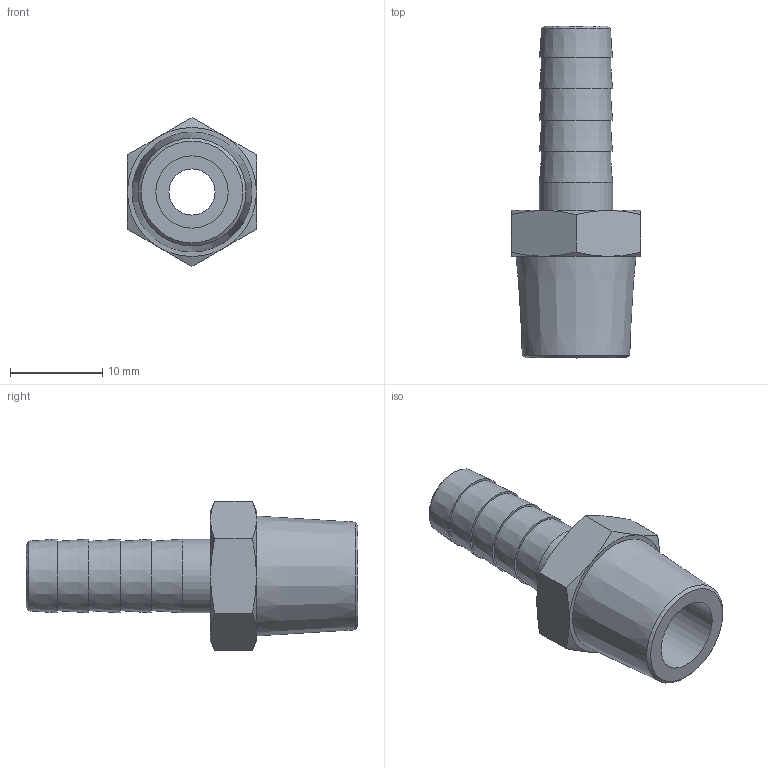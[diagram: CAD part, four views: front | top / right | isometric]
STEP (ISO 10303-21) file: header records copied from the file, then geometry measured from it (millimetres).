
FILE_DESCRIPTION(/* description */ (''),/* implementation_level */ '2;1');
FILE_NAME(/* name */ 'BXH09 08B2 00.stp',/* time_stamp */ '2026-06-22T10:55:22+02:00',/* author */ ('freju'),/* organization */ (''),/* preprocessor_version */ 'ST-DEVELOPER v20.1',/* originating_system */ 'Autodesk Inventor 2026',/* authorisation */ '');
FILE_SCHEMA (('AUTOMOTIVE_DESIGN { 1 0 10303 214 3 1 1 }'));
Length unit declared in the file: millimetre
Products named in the file (1): BXH09 08B2 00
Bounding box: 14 x 36 x 16.17 mm (x, y, z)
Volume: 2043.8 mm3; surface area: 2106.4 mm2
Topology: 1 solids, 1 shells, 38 faces, 75 edges, 46 vertices
Faces by surface type: cone 20, plane 15, cylinder 3
Full cylindrical faces by diameter (mm): 5 x1, 7.85 x1, 8 x1
Entity records: 1000 total; most frequent: CARTESIAN_POINT 208, DIRECTION 163, ORIENTED_EDGE 150, EDGE_CURVE 75, AXIS2_PLACEMENT_3D 73, EDGE_LOOP 47, VERTEX_POINT 46, FACE_OUTER_BOUND 38
